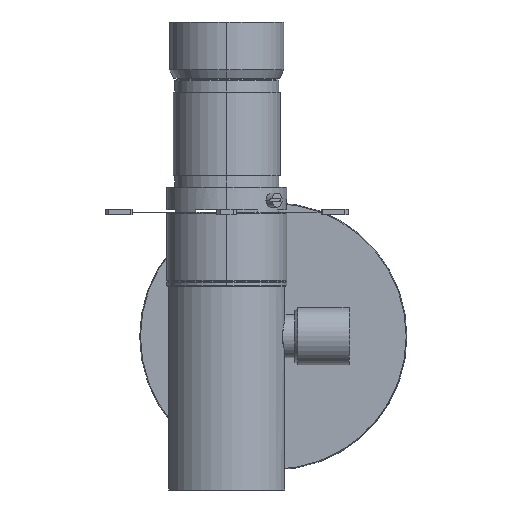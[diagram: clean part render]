
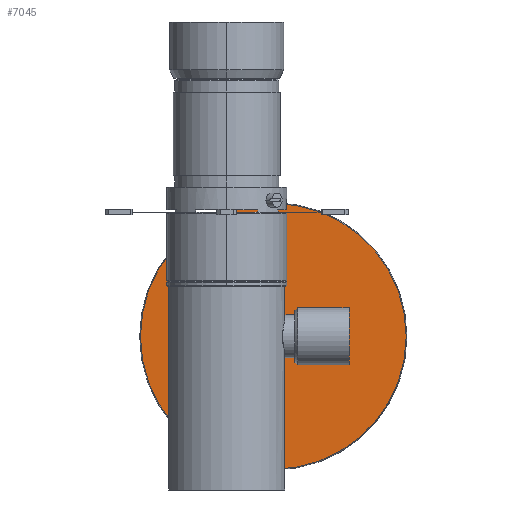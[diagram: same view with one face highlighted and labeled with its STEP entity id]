
A CAD part, front view. The second image highlights one B-rep face of the part: STEP entity #7045.
In plain terms, the highlighted planar face has unit normal (0, -1, 0).
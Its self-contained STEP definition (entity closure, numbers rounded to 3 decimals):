
#49 = DIRECTION ( 'NONE',  ( 0., 1., 0. ) ) ;
#329 = DIRECTION ( 'NONE',  ( 0., 1., 0. ) ) ;
#375 = ORIENTED_EDGE ( 'NONE', *, *, #7163, .T. ) ;
#436 = VERTEX_POINT ( 'NONE', #6690 ) ;
#605 = FACE_BOUND ( 'NONE', #5000, .T. ) ;
#827 = AXIS2_PLACEMENT_3D ( 'NONE', #3081, #6353, #1925 ) ;
#850 = CARTESIAN_POINT ( 'NONE',  ( 28.3, 124., 0. ) ) ;
#1087 = ORIENTED_EDGE ( 'NONE', *, *, #3905, .F. ) ;
#1545 = CIRCLE ( 'NONE', #5575, 18. ) ;
#1711 = EDGE_LOOP ( 'NONE', ( #5010, #1087 ) ) ;
#1831 = AXIS2_PLACEMENT_3D ( 'NONE', #3165, #3189, #3801 ) ;
#1868 = VERTEX_POINT ( 'NONE', #4650 ) ;
#1897 = PLANE ( 'NONE',  #827 ) ;
#1925 = DIRECTION ( 'NONE',  ( 0., 0., 1. ) ) ;
#2791 = DIRECTION ( 'NONE',  ( 0., 1., 0. ) ) ;
#2870 = DIRECTION ( 'NONE',  ( 0., 0., 1. ) ) ;
#3081 = CARTESIAN_POINT ( 'NONE',  ( -6.7, 124., 0. ) ) ;
#3165 = CARTESIAN_POINT ( 'NONE',  ( 28.3, 124., 0. ) ) ;
#3189 = DIRECTION ( 'NONE',  ( 0., 1., 0. ) ) ;
#3194 = VERTEX_POINT ( 'NONE', #3256 ) ;
#3256 = CARTESIAN_POINT ( 'NONE',  ( -6.7, 124., 93. ) ) ;
#3410 = FACE_OUTER_BOUND ( 'NONE', #1711, .T. ) ;
#3801 = DIRECTION ( 'NONE',  ( 0., 0., 1. ) ) ;
#3905 = EDGE_CURVE ( 'NONE', #1868, #3194, #7719, .T. ) ;
#3921 = EDGE_CURVE ( 'NONE', #436, #4102, #1545, .T. ) ;
#4102 = VERTEX_POINT ( 'NONE', #4899 ) ;
#4231 = AXIS2_PLACEMENT_3D ( 'NONE', #8078, #49, #8055 ) ;
#4489 = EDGE_CURVE ( 'NONE', #3194, #1868, #5535, .T. ) ;
#4650 = CARTESIAN_POINT ( 'NONE',  ( -6.7, 124., -93. ) ) ;
#4899 = CARTESIAN_POINT ( 'NONE',  ( 28.3, 124., -18. ) ) ;
#5000 = EDGE_LOOP ( 'NONE', ( #7167, #375 ) ) ;
#5010 = ORIENTED_EDGE ( 'NONE', *, *, #4489, .F. ) ;
#5412 = DIRECTION ( 'NONE',  ( 0., 0., 1. ) ) ;
#5535 = CIRCLE ( 'NONE', #4231, 93. ) ;
#5575 = AXIS2_PLACEMENT_3D ( 'NONE', #850, #329, #2870 ) ;
#5719 = CIRCLE ( 'NONE', #1831, 18. ) ;
#6040 = CARTESIAN_POINT ( 'NONE',  ( -6.7, 124., 0. ) ) ;
#6353 = DIRECTION ( 'NONE',  ( 0., 1., 0. ) ) ;
#6690 = CARTESIAN_POINT ( 'NONE',  ( 28.3, 124., 18. ) ) ;
#7045 = ADVANCED_FACE ( 'NONE', ( #605, #3410 ), #1897, .F. ) ;
#7163 = EDGE_CURVE ( 'NONE', #4102, #436, #5719, .T. ) ;
#7167 = ORIENTED_EDGE ( 'NONE', *, *, #3921, .T. ) ;
#7719 = CIRCLE ( 'NONE', #8109, 93. ) ;
#8055 = DIRECTION ( 'NONE',  ( 0., 0., 1. ) ) ;
#8078 = CARTESIAN_POINT ( 'NONE',  ( -6.7, 124., 0. ) ) ;
#8109 = AXIS2_PLACEMENT_3D ( 'NONE', #6040, #2791, #5412 ) ;
